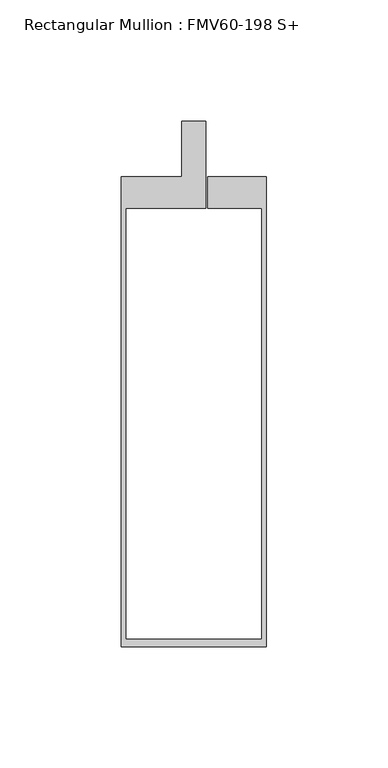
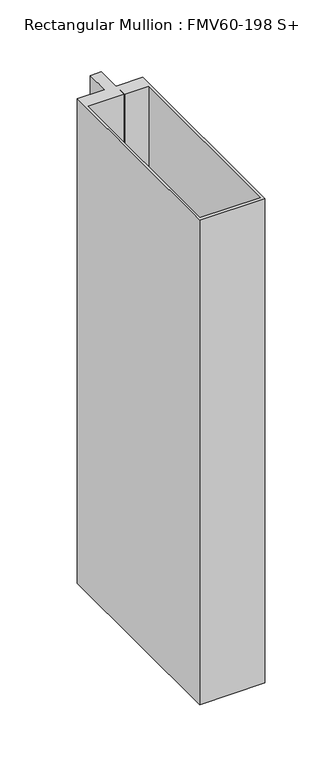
"""IFC4 building model written with IfcOpenShell, lengths in millimetres: member geometry, Rectangular Mullion : FMV60-198 S+."""

from ifc_helpers import new_model, si_unit, frame, origin, place, context, project, spatial, polyline, outline, extrude, source, transform, mapped, element, save


def rectangular_mullion_fmv60_198_s_b937cef9(model_context):
    return source(origin(), model_context, "Body", "SweptSolid", [
        extrude(outline(polyline([(-5.0, 0.1), (-5.0, 23.0768801), (5.0, 23.0768801), (5.0, -12.9034168), (-28.0157965, -12.9034168), (-28.0157965, -190.9078947), (27.9840779, -190.9078947), (27.9840779, -12.9034168), (5.8, -12.9034168), (5.8, 0.1), (29.9842035, 0.1), (29.9842035, -193.9078947), (-30.0157965, -193.9078947), (-30.0157965, 0.1), (-5.0, 0.1)])), frame((0.0, 0.0, -469.9998612), z_axis=(0.0, 0.0, 1.0), x_axis=(1.0, 0.0, 0.0)), (0.0, 0.0, 1.0), 469.9998612),
    ])


if __name__ == "__main__":
    model = new_model("IFC4")
    model_context = context("Model", 3, world=origin())
    ifc_project = project(units=[si_unit("LENGTHUNIT", "METRE", prefix="MILLI")], contexts=[model_context])
    site = spatial("IfcSite", under=ifc_project)
    building = spatial("IfcBuilding", under=site)
    placement = place(None, origin())
    rectangular_mullion_fmv60_198_s_shape = rectangular_mullion_fmv60_198_s_b937cef9(model_context)
    element("IfcMember", 1, ObjectType="Rectangular Mullion : FMV60-198 S+", at=placement, inside=building, context=model_context, shape_type="MappedRepresentation", body=[
        mapped(rectangular_mullion_fmv60_198_s_shape, transform((0.0, 0.0, 0.0), x_axis=(1.0, 0.0, 0.0), y_axis=(0.0, 1.0, 0.0), z_axis=(0.0, 0.0, 1.0))),
    ])
    save(model, "model.ifc")
